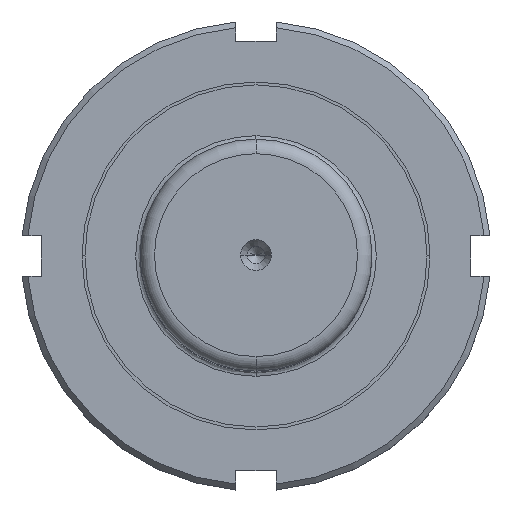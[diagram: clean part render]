
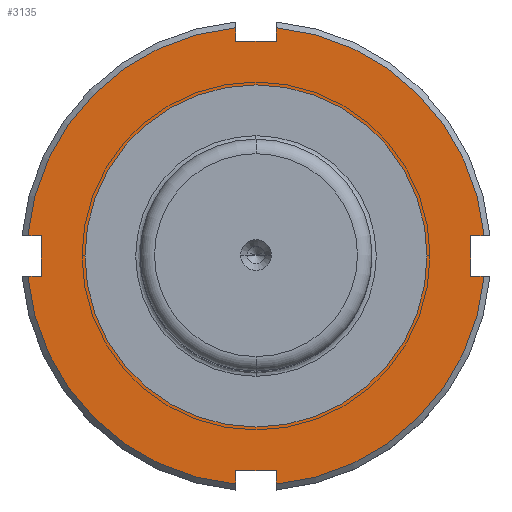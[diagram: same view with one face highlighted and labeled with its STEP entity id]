
A CAD part, top view. The second image highlights one B-rep face of the part: STEP entity #3135.
In plain terms, the highlighted planar face has unit normal (0, 0, 1).
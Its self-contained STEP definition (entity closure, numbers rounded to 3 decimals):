
#2227=CARTESIAN_POINT('',(0.0,29.5,46.0));
#2228=VERTEX_POINT('',#2227);
#2244=CARTESIAN_POINT('',(0.,-29.5,46.0));
#2245=VERTEX_POINT('',#2244);
#2252=CARTESIAN_POINT('',(0.0,0.0,46.0));
#2253=DIRECTION('',(0.0,0.0,-1.0));
#2254=DIRECTION('',(0.0,1.0,0.0));
#2255=AXIS2_PLACEMENT_3D('',#2252,#2253,#2254);
#2256=CIRCLE('',#2255,29.5);
#2257=EDGE_CURVE('',#2228,#2245,#2256,.T.);
#2292=CARTESIAN_POINT('',(-37.0,3.5,46.));
#2293=VERTEX_POINT('',#2292);
#2300=CARTESIAN_POINT('',(-39.345,3.5,46.0));
#2301=VERTEX_POINT('',#2300);
#2302=CARTESIAN_POINT('',(-39.345,3.5,46.0));
#2303=DIRECTION('',(1.0,0.0,0.0));
#2304=VECTOR('',#2303,2.345);
#2305=LINE('',#2302,#2304);
#2306=EDGE_CURVE('',#2301,#2293,#2305,.T.);
#2362=CARTESIAN_POINT('',(-39.345,-3.5,46.0));
#2363=VERTEX_POINT('',#2362);
#2377=CARTESIAN_POINT('',(-37.0,-3.5,46.));
#2378=VERTEX_POINT('',#2377);
#2379=CARTESIAN_POINT('',(-37.0,-3.5,46.));
#2380=DIRECTION('',(-1.0,0.0,0.0));
#2381=VECTOR('',#2380,2.345);
#2382=LINE('',#2379,#2381);
#2383=EDGE_CURVE('',#2378,#2363,#2382,.T.);
#2414=CARTESIAN_POINT('',(-37.0,3.5,46.));
#2415=DIRECTION('',(0.0,-1.0,0.0));
#2416=VECTOR('',#2415,7.0);
#2417=LINE('',#2414,#2416);
#2418=EDGE_CURVE('',#2293,#2378,#2417,.T.);
#2454=CARTESIAN_POINT('',(-3.5,-37.0,46.0));
#2455=VERTEX_POINT('',#2454);
#2462=CARTESIAN_POINT('',(-3.5,-39.345,46.0));
#2463=VERTEX_POINT('',#2462);
#2464=CARTESIAN_POINT('',(-3.5,-39.345,46.0));
#2465=DIRECTION('',(0.0,1.0,0.0));
#2466=VECTOR('',#2465,2.345);
#2467=LINE('',#2464,#2466);
#2468=EDGE_CURVE('',#2463,#2455,#2467,.T.);
#2524=CARTESIAN_POINT('',(3.5,-39.345,46.0));
#2525=VERTEX_POINT('',#2524);
#2539=CARTESIAN_POINT('',(3.5,-37.0,46.0));
#2540=VERTEX_POINT('',#2539);
#2541=CARTESIAN_POINT('',(3.5,-37.0,46.0));
#2542=DIRECTION('',(0.0,-1.0,0.0));
#2543=VECTOR('',#2542,2.345);
#2544=LINE('',#2541,#2543);
#2545=EDGE_CURVE('',#2540,#2525,#2544,.T.);
#2576=CARTESIAN_POINT('',(-3.5,-37.0,46.0));
#2577=DIRECTION('',(1.0,0.0,0.0));
#2578=VECTOR('',#2577,7.0);
#2579=LINE('',#2576,#2578);
#2580=EDGE_CURVE('',#2455,#2540,#2579,.T.);
#2616=CARTESIAN_POINT('',(37.0,-3.5,46.));
#2617=VERTEX_POINT('',#2616);
#2624=CARTESIAN_POINT('',(39.345,-3.5,46.0));
#2625=VERTEX_POINT('',#2624);
#2626=CARTESIAN_POINT('',(39.345,-3.5,46.0));
#2627=DIRECTION('',(-1.0,0.0,0.0));
#2628=VECTOR('',#2627,2.345);
#2629=LINE('',#2626,#2628);
#2630=EDGE_CURVE('',#2625,#2617,#2629,.T.);
#2686=CARTESIAN_POINT('',(39.345,3.5,46.0));
#2687=VERTEX_POINT('',#2686);
#2701=CARTESIAN_POINT('',(37.0,3.5,46.));
#2702=VERTEX_POINT('',#2701);
#2703=CARTESIAN_POINT('',(37.0,3.5,46.));
#2704=DIRECTION('',(1.0,0.0,0.0));
#2705=VECTOR('',#2704,2.345);
#2706=LINE('',#2703,#2705);
#2707=EDGE_CURVE('',#2702,#2687,#2706,.T.);
#2738=CARTESIAN_POINT('',(37.0,-3.5,46.));
#2739=DIRECTION('',(0.0,1.0,0.0));
#2740=VECTOR('',#2739,7.0);
#2741=LINE('',#2738,#2740);
#2742=EDGE_CURVE('',#2617,#2702,#2741,.T.);
#2778=CARTESIAN_POINT('',(3.5,37.0,46.0));
#2779=VERTEX_POINT('',#2778);
#2786=CARTESIAN_POINT('',(3.5,39.345,46.0));
#2787=VERTEX_POINT('',#2786);
#2788=CARTESIAN_POINT('',(3.5,39.345,46.0));
#2789=DIRECTION('',(0.0,-1.0,0.0));
#2790=VECTOR('',#2789,2.345);
#2791=LINE('',#2788,#2790);
#2792=EDGE_CURVE('',#2787,#2779,#2791,.T.);
#2848=CARTESIAN_POINT('',(-3.5,39.345,46.0));
#2849=VERTEX_POINT('',#2848);
#2863=CARTESIAN_POINT('',(-3.5,37.0,46.0));
#2864=VERTEX_POINT('',#2863);
#2865=CARTESIAN_POINT('',(-3.5,37.0,46.0));
#2866=DIRECTION('',(0.0,1.0,0.0));
#2867=VECTOR('',#2866,2.345);
#2868=LINE('',#2865,#2867);
#2869=EDGE_CURVE('',#2864,#2849,#2868,.T.);
#2900=CARTESIAN_POINT('',(3.5,37.0,46.0));
#2901=DIRECTION('',(-1.0,0.0,0.0));
#2902=VECTOR('',#2901,7.0);
#2903=LINE('',#2900,#2902);
#2904=EDGE_CURVE('',#2779,#2864,#2903,.T.);
#3078=CARTESIAN_POINT('',(0.0,34.5,46.0));
#3079=DIRECTION('',(0.0,0.0,1.0));
#3080=DIRECTION('',(1.0,0.0,0.0));
#3081=AXIS2_PLACEMENT_3D('',#3078,#3079,#3080);
#3082=PLANE('',#3081);
#3083=ORIENTED_EDGE('',*,*,#2306,.T.);
#3084=ORIENTED_EDGE('',*,*,#2418,.T.);
#3085=ORIENTED_EDGE('',*,*,#2383,.T.);
#3086=CARTESIAN_POINT('',(0.0,0.0,46.0));
#3087=DIRECTION('',(0.0,0.0,-1.0));
#3088=DIRECTION('',(0.0,1.0,0.0));
#3089=AXIS2_PLACEMENT_3D('',#3086,#3087,#3088);
#3090=CIRCLE('',#3089,39.5);
#3091=EDGE_CURVE('',#2463,#2363,#3090,.T.);
#3092=ORIENTED_EDGE('',*,*,#3091,.F.);
#3093=ORIENTED_EDGE('',*,*,#2468,.T.);
#3094=ORIENTED_EDGE('',*,*,#2580,.T.);
#3095=ORIENTED_EDGE('',*,*,#2545,.T.);
#3096=CARTESIAN_POINT('',(0.0,0.0,46.0));
#3097=DIRECTION('',(0.0,0.0,-1.0));
#3098=DIRECTION('',(0.0,1.0,0.0));
#3099=AXIS2_PLACEMENT_3D('',#3096,#3097,#3098);
#3100=CIRCLE('',#3099,39.5);
#3101=EDGE_CURVE('',#2625,#2525,#3100,.T.);
#3102=ORIENTED_EDGE('',*,*,#3101,.F.);
#3103=ORIENTED_EDGE('',*,*,#2630,.T.);
#3104=ORIENTED_EDGE('',*,*,#2742,.T.);
#3105=ORIENTED_EDGE('',*,*,#2707,.T.);
#3106=CARTESIAN_POINT('',(0.0,0.0,46.0));
#3107=DIRECTION('',(0.0,0.0,-1.0));
#3108=DIRECTION('',(0.0,1.0,0.0));
#3109=AXIS2_PLACEMENT_3D('',#3106,#3107,#3108);
#3110=CIRCLE('',#3109,39.5);
#3111=EDGE_CURVE('',#2787,#2687,#3110,.T.);
#3112=ORIENTED_EDGE('',*,*,#3111,.F.);
#3113=ORIENTED_EDGE('',*,*,#2792,.T.);
#3114=ORIENTED_EDGE('',*,*,#2904,.T.);
#3115=ORIENTED_EDGE('',*,*,#2869,.T.);
#3116=CARTESIAN_POINT('',(0.0,0.0,46.0));
#3117=DIRECTION('',(0.0,0.0,-1.0));
#3118=DIRECTION('',(0.0,1.0,0.0));
#3119=AXIS2_PLACEMENT_3D('',#3116,#3117,#3118);
#3120=CIRCLE('',#3119,39.5);
#3121=EDGE_CURVE('',#2301,#2849,#3120,.T.);
#3122=ORIENTED_EDGE('',*,*,#3121,.F.);
#3123=EDGE_LOOP('',(#3083,#3084,#3085,#3092,#3093,#3094,#3095,#3102,#3103,#3104,#3105,#3112,#3113,#3114,#3115,#3122));
#3124=FACE_OUTER_BOUND('',#3123,.T.);
#3125=ORIENTED_EDGE('',*,*,#2257,.T.);
#3126=CARTESIAN_POINT('',(0.0,0.0,46.0));
#3127=DIRECTION('',(0.0,0.0,-1.0));
#3128=DIRECTION('',(0.0,1.0,0.0));
#3129=AXIS2_PLACEMENT_3D('',#3126,#3127,#3128);
#3130=CIRCLE('',#3129,29.5);
#3131=EDGE_CURVE('',#2245,#2228,#3130,.T.);
#3132=ORIENTED_EDGE('',*,*,#3131,.T.);
#3133=EDGE_LOOP('',(#3125,#3132));
#3134=FACE_BOUND('',#3133,.T.);
#3135=ADVANCED_FACE('',(#3124,#3134),#3082,.T.);
